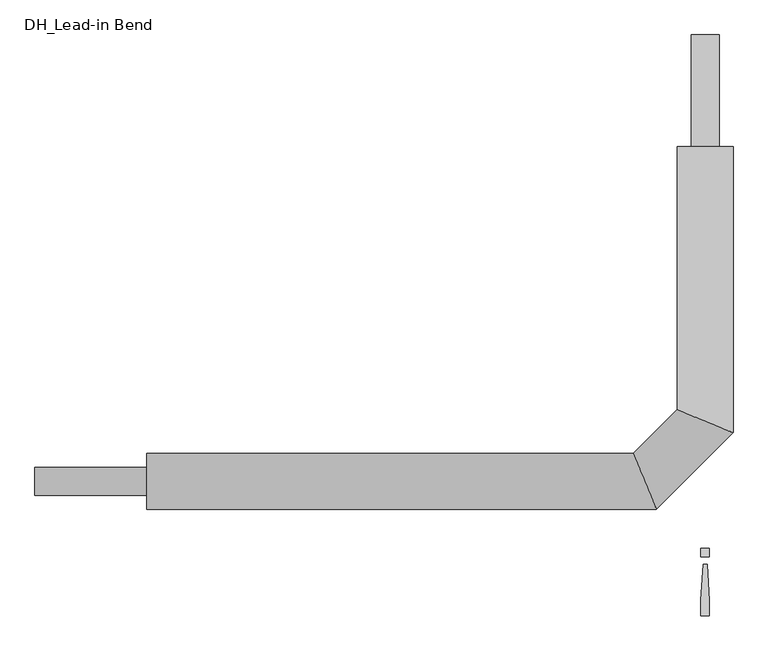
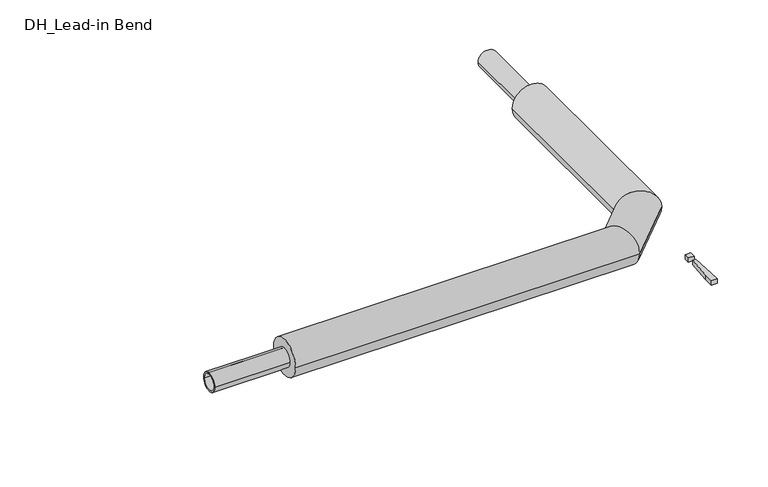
"""IFC4 building model written with IfcOpenShell, lengths in millimetres: pipe fitting geometry, DH_Lead-in Bend : INSULPEX UNO 11 Heating."""

import ifcopenshell
import ifcopenshell.guid

model = None  # the IFC model being written
_history = None  # IfcOwnerHistory: only IFC2X3 demands one
_inside = {}  # id of a spatial element -> (the spatial element, [elements in it])
_under = {}  # id of a project, library or spatial element -> (it, [spatial elements below it])
_declared = {}  # id of a project -> (the project, [libraries it declares])
_typed = {}  # id of a type object -> (the type object, [elements of that type])
_made_of = {}  # id of a material, layer set ... -> (it, [elements and type objects made of it])


def new_model(schema):
    """Start an empty IFC model of exactly this schema.

    Asked for "IFC4X3", IfcOpenShell would pick the latest addendum, in which some entities
    have other attributes; the version numbers below select the first issue.
    IFC2X3 requires an IfcOwnerHistory on every rooted entity: one is made here for all.
    """
    global model, _history
    if schema == "IFC4X3":
        model = ifcopenshell.file(schema_version=(4, 3, 0, 0))
    else:
        model = ifcopenshell.file(schema=schema)
    _inside.clear()
    _under.clear()
    _declared.clear()
    _typed.clear()
    _made_of.clear()
    _history = None
    if model.schema == "IFC2X3":
        org = make("IfcOrganization", Name="unknown")
        user = make(
            "IfcPersonAndOrganization",
            ThePerson=make("IfcPerson", FamilyName="unknown"),
            TheOrganization=org,
        )
        app = make(
            "IfcApplication",
            ApplicationDeveloper=org,
            Version="unknown",
            ApplicationFullName="unknown",
            ApplicationIdentifier="unknown",
        )
        _history = make(
            "IfcOwnerHistory",
            OwningUser=user,
            OwningApplication=app,
            ChangeAction="ADDED",
            CreationDate=0,
        )
    return model


def make(cls, **values):
    """One entity of the class cls with the attributes given. An attribute that is None is left unset."""
    return model.create_entity(
        cls, **{name: value for name, value in values.items() if value is not None}
    )


def rooted(cls, **values):
    """An entity with a GlobalId (a new one), such as an element, a storey or a relation."""
    return make(cls, GlobalId=ifcopenshell.guid.new(), OwnerHistory=_history, **values)


def si_unit(unit_type, name, prefix=None):
    """IfcSIUnit, for example si_unit("LENGTHUNIT", "METRE", prefix="MILLI")."""
    return make("IfcSIUnit", UnitType=unit_type, Prefix=prefix, Name=name)


def assignment(units):
    """IfcUnitAssignment: the units of a project."""
    return None if units is None else make("IfcUnitAssignment", Units=units)


def point(xyz):
    """IfcCartesianPoint."""
    return None if xyz is None else make("IfcCartesianPoint", Coordinates=xyz)


def direction(xyz):
    """IfcDirection."""
    return None if xyz is None else make("IfcDirection", DirectionRatios=xyz)


def frame(location, z_axis=None, x_axis=None):
    """IfcAxis2Placement3D, a coordinate frame: its origin and axes. An axis left out is left unset."""
    return make(
        "IfcAxis2Placement3D",
        Location=point(location),
        Axis=direction(z_axis),
        RefDirection=direction(x_axis),
    )


def frame_2d(location, x_axis=None):
    """IfcAxis2Placement2D, a coordinate frame in the plane: its origin and x axis."""
    return make(
        "IfcAxis2Placement2D", Location=point(location), RefDirection=direction(x_axis)
    )


def origin():
    """The frame at (0, 0, 0) with its axes left unset."""
    return frame((0.0, 0.0, 0.0))


def origin_with_axes():
    """The frame at (0, 0, 0) with the z axis (0, 0, 1) and the x axis (1, 0, 0) written out."""
    return frame((0.0, 0.0, 0.0), z_axis=(0.0, 0.0, 1.0), x_axis=(1.0, 0.0, 0.0))


def origin_2d():
    """The frame at (0, 0) in the plane with its x axis left unset."""
    return frame_2d((0.0, 0.0))


def place(relative_to, where):
    """IfcLocalPlacement: puts the frame where relative to a parent placement (None: the world)."""
    return make(
        "IfcLocalPlacement", PlacementRelTo=relative_to, RelativePlacement=where
    )


def context(
    kind, dimensions, precision=None, world=None, true_north=None, identifier=None
):
    """IfcGeometricRepresentationContext, for example the 3D "Model" context."""
    return make(
        "IfcGeometricRepresentationContext",
        ContextIdentifier=identifier,
        ContextType=kind,
        CoordinateSpaceDimension=dimensions,
        Precision=precision,
        WorldCoordinateSystem=world,
        TrueNorth=true_north,
    )


def project(units=None, contexts=None):
    """IfcProject with its units and contexts."""
    return rooted(
        "IfcProject",
        Name="project",
        RepresentationContexts=contexts,
        UnitsInContext=assignment(units),
    )


def spatial(cls, under=None, at=None, **own):
    """A site, building, storey or space (cls), placed at a placement, below another one or the project."""
    s = rooted(cls, ObjectPlacement=at, **own)
    if under is not None:
        _under.setdefault(under.id(), (under, []))[1].append(s)
    return s


def polyline(points):
    """IfcPolyline through the points."""
    return make("IfcPolyline", Points=[point(p) for p in points])


def circle_curve(where, radius):
    """IfcCircle in the frame where."""
    return make("IfcCircle", Position=where, Radius=radius)


def ellipse_curve(where, semi_axis1, semi_axis2):
    """IfcEllipse in the frame where."""
    return make(
        "IfcEllipse", Position=where, SemiAxis1=semi_axis1, SemiAxis2=semi_axis2
    )


def trimmed(basis, trim1, trim2, sense, master):
    """IfcTrimmedCurve: the piece of a basis curve between two trims."""
    return make(
        "IfcTrimmedCurve",
        BasisCurve=basis,
        Trim1=trim1,
        Trim2=trim2,
        SenseAgreement=sense,
        MasterRepresentation=master,
    )


def segment(curve, same_sense, transition):
    """IfcCompositeCurveSegment."""
    return make(
        "IfcCompositeCurveSegment",
        Transition=transition,
        SameSense=same_sense,
        ParentCurve=curve,
    )


def composite_curve(segments, self_intersect=None):
    """IfcCompositeCurve: segments joined end to end."""
    return make("IfcCompositeCurve", Segments=segments, SelfIntersect=self_intersect)


def outline(outer, holes=None, kind="AREA"):
    """IfcArbitraryClosedProfileDef: a profile drawn as a closed curve; with holes, ...WithVoids."""
    if holes is None:
        return make("IfcArbitraryClosedProfileDef", ProfileType=kind, OuterCurve=outer)
    return make(
        "IfcArbitraryProfileDefWithVoids",
        ProfileType=kind,
        OuterCurve=outer,
        InnerCurves=holes,
    )


def extrude(swept, where, along, depth):
    """IfcExtrudedAreaSolid: the profile swept, set in the frame where, extruded along a direction by depth."""
    return make(
        "IfcExtrudedAreaSolid",
        SweptArea=swept,
        Position=where,
        ExtrudedDirection=direction(along),
        Depth=depth,
    )


def shape(context_of_items, identifier, shape_type, items):
    """IfcShapeRepresentation: the items that make up one representation, for example the "Body"."""
    return make(
        "IfcShapeRepresentation",
        ContextOfItems=context_of_items,
        RepresentationIdentifier=identifier,
        RepresentationType=shape_type,
        Items=items,
    )


def source(mapping_origin, context_of_items, identifier, shape_type, items):
    """IfcRepresentationMap: a shape defined once, which mapped items show again and again."""
    return make(
        "IfcRepresentationMap",
        MappingOrigin=mapping_origin,
        MappedRepresentation=shape(context_of_items, identifier, shape_type, items),
    )


def transform(
    local_origin,
    x_axis=None,
    y_axis=None,
    z_axis=None,
    scale=None,
    scale2=None,
    scale3=None,
    uniform=True,
):
    """IfcCartesianTransformationOperator3D, or its non-uniform kind. x_axis, y_axis, z_axis: its Axis1, 2, 3."""
    if uniform:
        return make(
            "IfcCartesianTransformationOperator3D",
            Axis1=direction(x_axis),
            Axis2=direction(y_axis),
            LocalOrigin=point(local_origin),
            Scale=scale,
            Axis3=direction(z_axis),
        )
    return make(
        "IfcCartesianTransformationOperator3DnonUniform",
        Axis1=direction(x_axis),
        Axis2=direction(y_axis),
        LocalOrigin=point(local_origin),
        Scale=scale,
        Axis3=direction(z_axis),
        Scale2=scale2,
        Scale3=scale3,
    )


def mapped(mapping_source, mapping_target):
    """IfcMappedItem: shows the shape of a source again, moved by a transform."""
    return make(
        "IfcMappedItem", MappingSource=mapping_source, MappingTarget=mapping_target
    )


def made_of(thing, what):
    """Note that an element or type object is made of a material, layer set ...; save() writes the relation."""
    if what is not None:
        _made_of.setdefault(what.id(), (what, []))[1].append(thing)
    return thing


def element(
    cls,
    number,
    at=None,
    inside=None,
    cuts=None,
    type_object=None,
    material=None,
    context=None,
    identifier="Body",
    shape_type=None,
    held_by="IfcProductDefinitionShape",
    body=None,
    shapes=None,
    **own,
):
    """One element of the class cls, such as IfcWall. Its Tag is "e" and its number.

    at: its placement. inside: the storey or other place that contains it. cuts: it is an
    opening in that element (IfcRelVoidsElement). A single representation is given by context,
    identifier, shape_type and body (its items); several are given by shapes. held_by: the class
    of the entity that holds the representations. save() writes the other relations.
    """
    e = rooted(cls, Tag="e%d" % number, ObjectPlacement=at, **own)
    if body is not None:
        shapes = [shape(context, identifier, shape_type, body)]
    if shapes is not None:
        e.Representation = make(held_by, Representations=shapes)
    if inside is not None:
        _inside.setdefault(inside.id(), (inside, []))[1].append(e)
    if cuts is not None:
        rooted(
            "IfcRelVoidsElement", RelatingBuildingElement=cuts, RelatedOpeningElement=e
        )
    if type_object is not None:
        _typed.setdefault(type_object.id(), (type_object, []))[1].append(e)
    return made_of(e, material)


def aggregate(whole, parts):
    """IfcRelAggregates: a whole, such as a stair, and the parts it consists of."""
    return rooted("IfcRelAggregates", RelatingObject=whole, RelatedObjects=parts)


def save(model, path):
    """Write the relations noted so far, then the file.

    IfcRelAggregates (storeys below a building ...), IfcRelContainedInSpatialStructure (elements
    in a storey), IfcRelDefinesByType, IfcRelAssociatesMaterial and IfcRelDeclares: one each for
    every whole, place, type object, material and project.
    """
    for whole, parts in _under.values():
        aggregate(whole, parts)
    for where, things in _inside.values():
        rooted(
            "IfcRelContainedInSpatialStructure",
            RelatedElements=things,
            RelatingStructure=where,
        )
    for kind, things in _typed.values():
        rooted("IfcRelDefinesByType", RelatedObjects=things, RelatingType=kind)
    for what, things in _made_of.values():
        rooted("IfcRelAssociatesMaterial", RelatedObjects=things, RelatingMaterial=what)
    for by, libraries in _declared.values():
        rooted("IfcRelDeclares", RelatingContext=by, RelatedDefinitions=libraries)
    model.write(path)


def plane_surface(at):
    """IfcPlane: the flat surface through the origin of the frame at, square to its z axis."""
    return make("IfcPlane", Position=at)


def cylinder_surface(at, radius):
    """IfcCylindricalSurface: all points at the distance radius from the z axis of the frame at."""
    return make("IfcCylindricalSurface", Position=at, Radius=radius)


def advanced_brep(points, edges, surfaces, faces):
    """IfcAdvancedBrep: a solid bounded by faces that lie on surfaces and meet in shared edges.

    An edge is (start, end): straight between two places in points (the first is 0);
    or (start, end, curve); or (start, end, curve, False) where it runs against its curve.
    A face is (place in surfaces, loops), or (place, loops, False) where it looks against
    its surface's normal. A loop lists edges by number (the first is 1), with a minus sign
    where the edge is run from its end to its start. The first loop is the outer one.
    """
    corners = [point(p) for p in points]
    vertices = [make("IfcVertexPoint", VertexGeometry=c) for c in corners]
    made = []
    for start, end, *more in edges:
        made.append(
            make(
                "IfcEdgeCurve",
                EdgeStart=vertices[start],
                EdgeEnd=vertices[end],
                EdgeGeometry=more[0] if more else make("IfcPolyline", Points=[corners[start], corners[end]]),
                SameSense=more[1] if len(more) > 1 else True,
            )
        )
    hull = []
    for where, loops, *sense in faces:
        bounds = []
        for j, loop in enumerate(loops):
            ring = [make("IfcOrientedEdge", EdgeElement=made[abs(k) - 1], Orientation=k > 0) for k in loop]
            bounds.append(
                make(
                    "IfcFaceOuterBound" if j == 0 else "IfcFaceBound",
                    Bound=make("IfcEdgeLoop", EdgeList=ring),
                    Orientation=True,
                )
            )
        hull.append(make("IfcAdvancedFace", Bounds=bounds, FaceSurface=surfaces[where], SameSense=sense[0] if sense else True))
    return make("IfcAdvancedBrep", Outer=make("IfcClosedShell", CfsFaces=hull))


def dh_lead_in_bend_e9c43efa(model_context):
    return source(origin(), model_context, "Body", "SolidModel", [
        advanced_brep(
        [(-1250.0, -62.5, 0.0), (-1250.0, 62.5, 0.0), (-109.1116524, -62.5, 0.0), (-160.8883476, 62.5, 0.0), (62.5, 750.0, 0.0), (-62.5, 750.0, 0.0), (-62.5, 160.8883476, 0.0), (62.5, 109.1116524, 0.0)],
        [
            (0, 1, circle_curve(frame((-1250.0, 0.0, 0.0), z_axis=(-1.0, 0.0, 0.0), x_axis=(0.0, 1.0, 0.0)), 62.5)),
            (1, 0, circle_curve(frame((-1250.0, 0.0, 0.0), z_axis=(-1.0, 0.0, 0.0), x_axis=(0.0, 1.0, 0.0)), 62.5)),
            (0, 2),
            (2, 3, ellipse_curve(frame((-135.0, 0.0, 0.0), z_axis=(-0.9238795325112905, -0.3826834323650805, 0.0), x_axis=(-0.38268343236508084, 0.9238795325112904, 0.0)), 67.6495125, 62.5)),
            (3, 1),
            (3, 2, ellipse_curve(frame((-135.0, 0.0, 0.0), z_axis=(-0.9238795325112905, -0.3826834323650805, 0.0), x_axis=(-0.38268343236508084, 0.9238795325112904, 0.0)), 67.6495125, 62.5)),
            (4, 5, circle_curve(frame((0.0, 750.0, 0.0), z_axis=(0.0, 1.0, 0.0), x_axis=(-1.0, 0.0, 0.0)), 62.5)),
            (5, 4, circle_curve(frame((0.0, 750.0, 0.0), z_axis=(0.0, 1.0, 0.0), x_axis=(-1.0, 0.0, 0.0)), 62.5)),
            (6, 7, ellipse_curve(frame((0.0, 135.0, 0.0), z_axis=(0.382683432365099, 0.923879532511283, 0.0), x_axis=(0.923879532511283, -0.3826834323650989, 0.0)), 67.6495125, 62.5)),
            (7, 4),
            (5, 6),
            (7, 6, ellipse_curve(frame((0.0, 135.0, 0.0), z_axis=(0.382683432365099, 0.923879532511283, 0.0), x_axis=(0.923879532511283, -0.3826834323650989, 0.0)), 67.6495125, 62.5)),
            (2, 7),
            (6, 3),
        ],
        [
            plane_surface(frame((-1250.0, 0.0, 0.0), z_axis=(-1.0, 0.0, 0.0), x_axis=(0.0, 0.0, 1.0))),
            cylinder_surface(frame((-1250.0, 0.0, 0.0), z_axis=(-1.0, 0.0, 0.0), x_axis=(0.0, 1.0, 0.0)), 62.5),
            plane_surface(frame((0.0, 750.0, 0.0), z_axis=(0.0, 1.0, 0.0), x_axis=(0.0, 0.0, 1.0))),
            cylinder_surface(frame((0.0, 135.0, 0.0), z_axis=(0.0, -1.0, 0.0), x_axis=(-1.0, 0.0, 0.0)), 62.5),
            cylinder_surface(frame((-135.0, 0.0, 0.0), z_axis=(-0.7071067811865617, -0.7071067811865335, 0.0), x_axis=(-0.7071067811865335, 0.7071067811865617, 0.0)), 62.5),
        ],
        [
            (0, [[1, 2]]),
            (1, [[-1, 3, 4, 5]]),
            (1, [[-2, -5, 6, -3]]),
            (2, [[7, 8]]),
            (3, [[9, 10, -8, 11]]),
            (3, [[12, -11, -7, -10]]),
            (4, [[-4, 13, -9, 14]]),
            (4, [[-6, -14, -12, -13]]),
        ],
    ),
        extrude(outline(polyline([(4.7088895, -185.3166715), (9.4177791, -266.6553807), (9.4177791, -300.6844652), (-9.4177791, -300.6844652), (-9.4177791, -266.6553807), (-4.7088895, -185.3166715), (4.7088895, -185.3166715)])), origin_with_axes(), (0.0, 0.0, 1.0), 15.0),
        extrude(outline(polyline([(9.4177791, -150.0), (9.4177791, -168.8355582), (-9.4177791, -168.8355582), (-9.4177791, -150.0), (9.4177791, -150.0)])), origin_with_axes(), (0.0, 0.0, 1.0), 15.0),
        extrude(outline(composite_curve([segment(trimmed(circle_curve(origin_2d(), 31.5), [point((-31.5, 0.0))], [point((31.5, 0.0))], False, "CARTESIAN"), True, "CONTINUOUS"), segment(trimmed(circle_curve(origin_2d(), 31.5), [point((31.5, 0.0))], [point((-31.5, 0.0))], False, "CARTESIAN"), True, "CONTINUOUS")], self_intersect=False), holes=[composite_curve([segment(trimmed(circle_curve(origin_2d(), 25.7), [point((-25.7, 0.0))], [point((25.7, 0.0))], True, "CARTESIAN"), True, "CONTINUOUS"), segment(trimmed(circle_curve(origin_2d(), 25.7), [point((25.7, 0.0))], [point((-25.7, 0.0))], True, "CARTESIAN"), True, "CONTINUOUS")], self_intersect=False)]), frame((-1500.0, 0.0, 0.0), z_axis=(1.0, 0.0, 0.0), x_axis=(0.0, 1.0, 0.0)), (0.0, 0.0, 1.0), 250.0),
        extrude(outline(composite_curve([segment(trimmed(circle_curve(origin_2d(), 31.5), [point((0.0, 31.5))], [point((0.0, -31.5))], False, "CARTESIAN"), True, "CONTINUOUS"), segment(trimmed(circle_curve(origin_2d(), 31.5), [point((0.0, -31.5))], [point((0.0, 31.5))], False, "CARTESIAN"), True, "CONTINUOUS")], self_intersect=False), holes=[composite_curve([segment(trimmed(circle_curve(origin_2d(), 25.7), [point((0.0, 25.7))], [point((0.0, -25.7))], True, "CARTESIAN"), True, "CONTINUOUS"), segment(trimmed(circle_curve(origin_2d(), 25.7), [point((0.0, -25.7))], [point((0.0, 25.7))], True, "CARTESIAN"), True, "CONTINUOUS")], self_intersect=False)]), frame((0.0, 750.0, 0.0), z_axis=(0.0, 1.0, 0.0), x_axis=(0.0, 0.0, 1.0)), (0.0, 0.0, 1.0), 250.0),
    ])


if __name__ == "__main__":
    model = new_model("IFC4")
    model_context = context("Model", 3, world=origin())
    ifc_project = project(units=[si_unit("LENGTHUNIT", "METRE", prefix="MILLI")], contexts=[model_context])
    site = spatial("IfcSite", under=ifc_project)
    building = spatial("IfcBuilding", under=site)
    placement = place(None, origin())
    dh_lead_in_bend_shape = dh_lead_in_bend_e9c43efa(model_context)
    element("IfcPipeFitting", 1, ObjectType="DH_Lead-in Bend : INSULPEX UNO 11 Heating", at=placement, inside=building, context=model_context, shape_type="MappedRepresentation", body=[
        mapped(dh_lead_in_bend_shape, transform((0.0, 0.0, 0.0), x_axis=(1.0, 0.0, 0.0), y_axis=(0.0, 1.0, 0.0), z_axis=(0.0, 0.0, 1.0))),
    ])
    save(model, "model.ifc")
